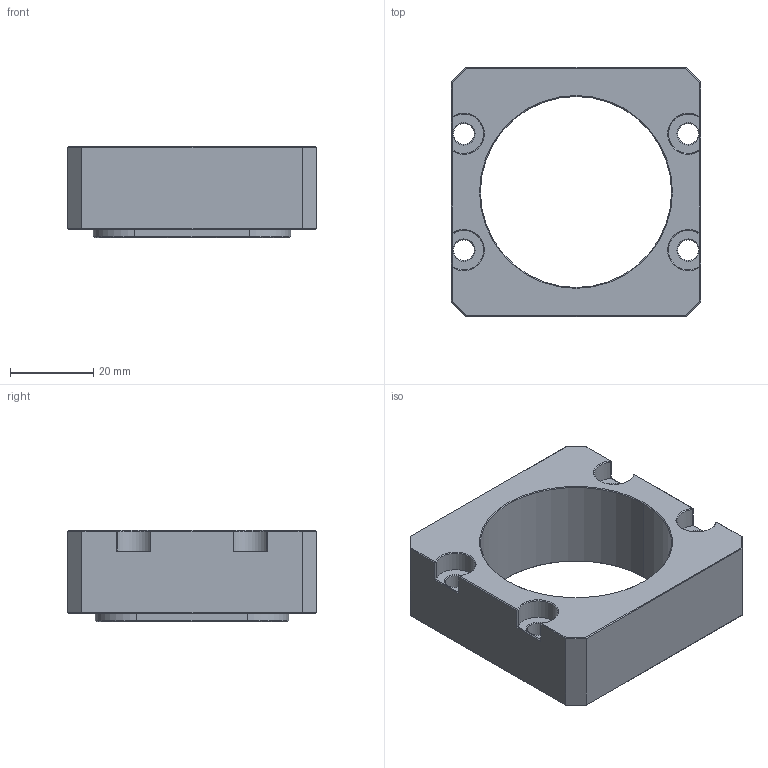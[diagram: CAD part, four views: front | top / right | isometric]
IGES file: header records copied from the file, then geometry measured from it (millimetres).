
Start section:  PTC IGES file: PI60.igs
Global section: file name: PI60.igs; native system: Pro/ENGINEER by Parametric Technology Corporation; preprocessor: 2009440; author: Owner; organization: Unknown; date: 20170526.170501; units: millimetre
Bounding box: 60 x 60 x 22 mm (x, y, z)
Surface area: 12902.6 mm2 (no closed solid volume)
Topology: 0 solids, 0 shells, 101 faces, 504 edges, 504 vertices
Faces by surface type: bspline 55, revolution 46
